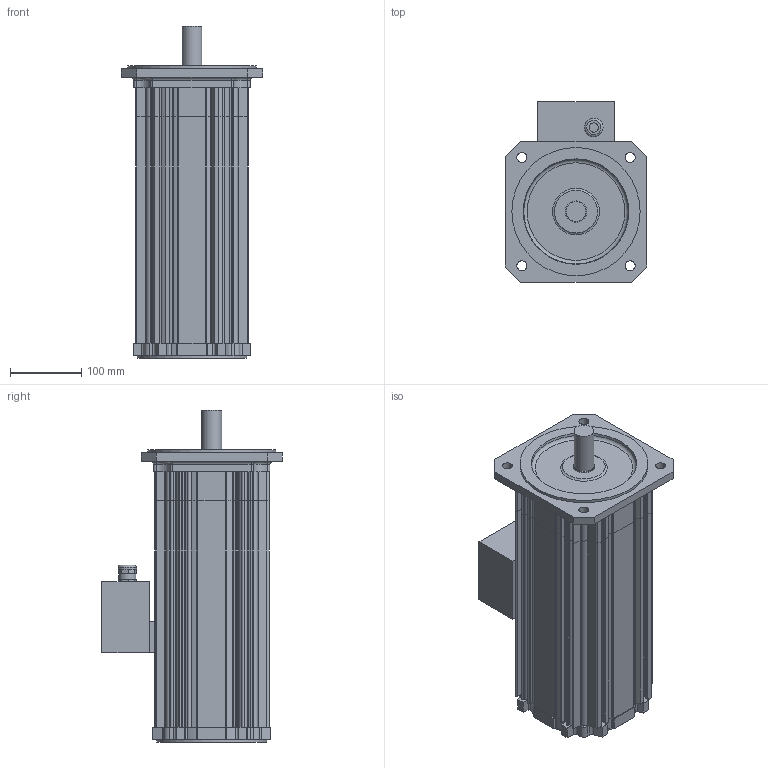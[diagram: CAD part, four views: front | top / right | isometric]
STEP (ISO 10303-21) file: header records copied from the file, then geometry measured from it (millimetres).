
FILE_DESCRIPTION(/* description */ (''),/* implementation_level */ '2;1');
FILE_NAME(/* name */ 'KSA8412_MC',/* time_stamp */ '2009-02-26T16:14:08+01:00',/* author */ (''),/* organization */ (''),/* preprocessor_version */ 'ST-DEVELOPER v8',/* originating_system */ 'UNIGRAPHICS SOLUTIONS - UNIGRAPHICS 18.0',/* authorisation */ '');
FILE_SCHEMA (('AUTOMOTIVE_DESIGN { 1 2 10303 214 0 1 1 1 }'));
Length unit declared in the file: millimetre
Products named in the file (6): 0280391600_0; Lagersch_8BS_0; Lagersch_8AS_0; 089107X_0; SK3958_0; KSA8412_MC_0
Assembly tree (5 placements, depth 3):
  KSA8412_MC_0
    089107X_0
    Lagersch_8AS_0
    Lagersch_8BS_0
    SK3958_0
      0280391600_0
Bounding box: 198 x 253.35 x 466 mm (x, y, z)
Volume: 3613348.8 mm3; surface area: 831499.9 mm2
Topology: 6 solids, 6 shells, 666 faces, 1889 edges, 1249 vertices
Faces by surface type: cylinder 339, plane 302, torus 23, cone 2
Full cylindrical faces by diameter (mm): 13 x1, 14 x4, 20 x2, 24 x1, 26 x1, 28 x1, 30 x1, 35 x1, 143 x1, 149.6 x2, 151 x2, 154 x1, 180 x1
Entity records: 21937 total; most frequent: DIRECTION 3904, CARTESIAN_POINT 3892, ORIENTED_EDGE 3716, EDGE_CURVE 1858, AXIS2_PLACEMENT_3D 1398, VERTEX_POINT 1242, LINE 1108, VECTOR 1108
